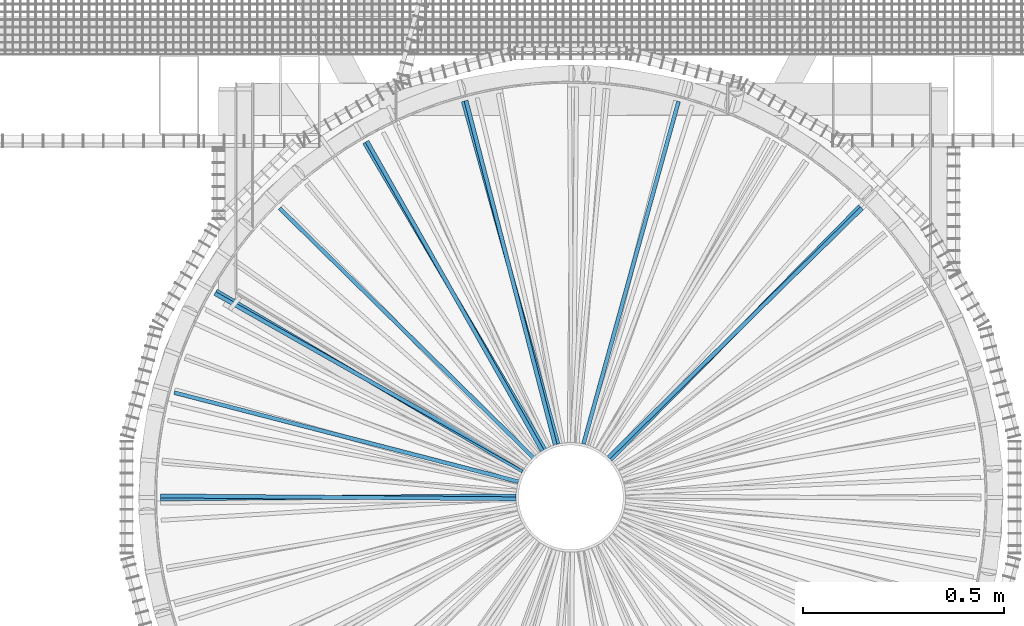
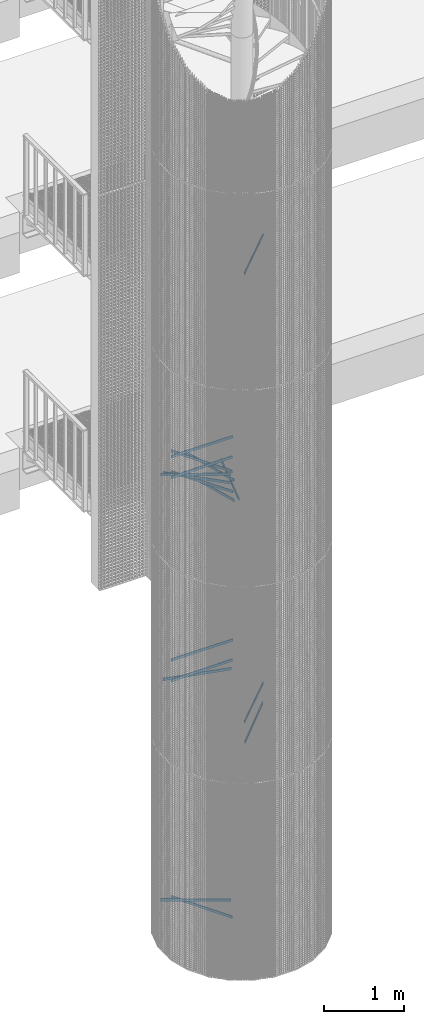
# One storey, part 227 of 1183: 17 beams, 2 elements without a shape of their own.
"""IFC2X3 building model written with IfcOpenShell, lengths in millimetres."""

from ifc_helpers import new_model, si_unit, frame, origin_with_axes, origin_2d_with_axis, place, context, subcontext, project, spatial, polyline, rectangle, outline, extrude, boolean, material, type_object, element, aggregate, save


model = new_model("IFC2X3")

# Units and contexts
model_context = context("Model", 3, precision=1e-05, world=origin_with_axes())
body_context = subcontext(model_context, "Body", "Model", "MODEL_VIEW")
ifc_project = project(units=[si_unit("LENGTHUNIT", "METRE", prefix="MILLI"), si_unit("AREAUNIT", "SQUARE_METRE"), si_unit("VOLUMEUNIT", "CUBIC_METRE"), si_unit("MASSUNIT", "GRAM", prefix="KILO"), si_unit("TIMEUNIT", "SECOND"), si_unit("PLANEANGLEUNIT", "RADIAN"), si_unit("SOLIDANGLEUNIT", "STERADIAN"), si_unit("THERMODYNAMICTEMPERATUREUNIT", "DEGREE_CELSIUS"), si_unit("LUMINOUSINTENSITYUNIT", "LUMEN")], contexts=[model_context])

# Site, building, storey
site_placement = place(None, origin_with_axes())
site = spatial("IfcSite", under=ifc_project, at=site_placement, Name="Undefined", CompositionType="ELEMENT")
building_placement = place(site_placement, origin_with_axes())
building = spatial("IfcBuilding", under=site, at=building_placement, Name="Undefined", CompositionType="ELEMENT")
storey_placement = place(building_placement, origin_with_axes())
storey = spatial("IfcBuildingStorey", under=building, at=storey_placement, Name="Undefined", CompositionType="ELEMENT", Elevation=0.0)

# Assembly, beams
assembly_1_placement = place(storey_placement, origin_with_axes())
assembly_1 = element("IfcElementAssembly", 1, at=assembly_1_placement, inside=storey, Name="POTEAU", AssemblyPlace="NOTDEFINED", PredefinedType="NOTDEFINED")
ifc_material = material(Name="STEEL/S235JR")
beam_type = type_object("IfcBeamType", Name="PL10*40", PredefinedType="NOTDEFINED")
beam_1_placement = place(assembly_1_placement, frame((-83.9487882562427, 4.289182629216, 7248.6), z_axis=(0.0, 0.0, 1.0), x_axis=(-0.99996413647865, -0.00846910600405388, 0.0)))
beam_1 = element("IfcBeam", 2, at=beam_1_placement, type_object=beam_type, material=ifc_material, Name="RAIDISSEUR", context=body_context, shape_type="CSG", body=[
    boolean("DIFFERENCE", extrude(rectangle(XDim=10.0, YDim=40.0, at=origin_2d_with_axis()), frame((935.982964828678, -2.59787459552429e-14, -3.63797880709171e-12), z_axis=(-1.0, 0.0, 0.0), x_axis=(0.0, -1.0, 0.0)), (0.0, 0.0, 1.0), 935.98), extrude(outline(polyline([(0.0, 0.0), (30.5663019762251, -4.91127138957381e-11), (60.366242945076, 6.80164206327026), (87.9055294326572, 20.0638634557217), (111.803226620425, 39.1216410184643), (130.861004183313, 63.0193382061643), (144.123225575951, 90.5586246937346), (150.9248676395, 120.358565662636), (150.924867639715, 150.924867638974), (144.123225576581, 180.724808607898), (130.86100418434, 208.264095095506), (111.803226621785, 232.161792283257), (87.9055294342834, 251.219569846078), (60.3662429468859, 264.481791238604), (30.5663019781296, 271.283433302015), (1.90266291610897e-09, 271.28343330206), (-29.7999409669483, 264.481791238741), (-57.3392274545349, 251.219569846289), (-81.2369246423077, 232.161792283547), (-100.294702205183, 208.26409509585), (-113.556923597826, 180.724808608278), (-120.35856566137, 150.92486763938), (-120.358565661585, 120.358565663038), (-113.556923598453, 90.5586246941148), (-100.294702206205, 63.0193382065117), (-81.2369246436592, 39.1216410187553), (-57.3392274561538, 20.0638634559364), (-29.7999409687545, 6.80164206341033), (0.0, 0.0)])), frame((52.5144067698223, 0.441408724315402, -22.5000000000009), z_axis=(0.0, 0.0, 1.0), x_axis=(-0.0787157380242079, 0.996897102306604, 0.0)), (0.0, 0.0, 1.0), 45.0)),
])
beam_2_placement = place(assembly_1_placement, frame((-56.3278473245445, 62.3936675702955, 6779.04), z_axis=(0.0, 0.0, 1.0), x_axis=(-0.713069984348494, 0.70109285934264, 0.0)))
beam_2 = element("IfcBeam", 3, at=beam_2_placement, type_object=beam_type, material=ifc_material, Name="RAIDISSEUR", context=body_context, shape_type="CSG", body=[
    boolean("DIFFERENCE", extrude(rectangle(XDim=10.0, YDim=40.0, at=origin_2d_with_axis()), frame((935.982964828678, -2.59787459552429e-14, -3.63797880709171e-12), z_axis=(-1.0, 0.0, 0.0), x_axis=(0.0, -1.0, 0.0)), (0.0, 0.0, 1.0), 935.98), extrude(outline(polyline([(0.0, 0.0), (30.5663019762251, -4.91127138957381e-11), (60.366242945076, 6.80164206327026), (87.9055294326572, 20.0638634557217), (111.803226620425, 39.1216410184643), (130.861004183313, 63.0193382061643), (144.123225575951, 90.5586246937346), (150.9248676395, 120.358565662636), (150.924867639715, 150.924867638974), (144.123225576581, 180.724808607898), (130.86100418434, 208.264095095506), (111.803226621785, 232.161792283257), (87.9055294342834, 251.219569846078), (60.3662429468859, 264.481791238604), (30.5663019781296, 271.283433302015), (1.90266291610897e-09, 271.28343330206), (-29.7999409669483, 264.481791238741), (-57.3392274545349, 251.219569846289), (-81.2369246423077, 232.161792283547), (-100.294702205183, 208.26409509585), (-113.556923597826, 180.724808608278), (-120.35856566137, 150.92486763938), (-120.358565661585, 120.358565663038), (-113.556923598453, 90.5586246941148), (-100.294702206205, 63.0193382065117), (-81.2369246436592, 39.1216410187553), (-57.3392274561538, 20.0638634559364), (-29.7999409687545, 6.80164206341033), (0.0, 0.0)])), frame((15.7801944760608, 98.2428248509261, -22.5), z_axis=(0.0, 0.0, 1.0), x_axis=(-0.760573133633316, 0.649252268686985, 0.0)), (0.0, 0.0, 1.0), 45.0)),
])
beam_3_placement = place(assembly_1_placement, frame((-70.5571919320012, 45.6889352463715, 6935.56), z_axis=(0.0, 0.0, 1.0), x_axis=(-0.870228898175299, 0.492647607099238, 0.0)))
beam_3 = element("IfcBeam", 4, at=beam_3_placement, type_object=beam_type, material=ifc_material, Name="RAIDISSEUR", context=body_context, shape_type="CSG", body=[
    boolean("DIFFERENCE", extrude(rectangle(XDim=10.0, YDim=40.0, at=origin_2d_with_axis()), frame((935.982964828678, -2.59787459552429e-14, -3.63797880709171e-12), z_axis=(-1.0, 0.0, 0.0), x_axis=(0.0, -1.0, 0.0)), (0.0, 0.0, 1.0), 935.98), extrude(outline(polyline([(0.0, 0.0), (30.5663019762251, -4.91127138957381e-11), (60.366242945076, 6.80164206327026), (87.9055294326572, 20.0638634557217), (111.803226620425, 39.1216410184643), (130.861004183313, 63.0193382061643), (144.123225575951, 90.5586246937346), (150.9248676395, 120.358565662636), (150.924867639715, 150.924867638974), (144.123225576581, 180.724808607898), (130.86100418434, 208.264095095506), (111.803226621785, 232.161792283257), (87.9055294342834, 251.219569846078), (60.3662429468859, 264.481791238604), (30.5663019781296, 271.283433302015), (1.90266291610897e-09, 271.28343330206), (-29.7999409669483, 264.481791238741), (-57.3392274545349, 251.219569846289), (-81.2369246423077, 232.161792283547), (-100.294702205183, 208.26409509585), (-113.556923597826, 180.724808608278), (-120.35856566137, 150.92486763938), (-120.358565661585, 120.358565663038), (-113.556923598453, 90.5586246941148), (-100.294702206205, 63.0193382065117), (-81.2369246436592, 39.1216410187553), (-57.3392274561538, 20.0638634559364), (-29.7999409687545, 6.80164206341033), (0.0, 0.0)])), frame((36.5163710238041, 69.264073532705, -22.5000000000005), z_axis=(0.0, 0.0, 1.0), x_axis=(-0.566618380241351, 0.823980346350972, 0.0)), (0.0, 0.0, 1.0), 45.0)),
])
beam_4_placement = place(assembly_1_placement, frame((-83.9487882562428, -4.28918262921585, 7561.64), z_axis=(0.0, 0.0, 1.0), x_axis=(-0.99996413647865, 0.00846910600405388, 0.0)))
beam_4 = element("IfcBeam", 5, at=beam_4_placement, type_object=beam_type, material=ifc_material, Name="RAIDISSEUR", context=body_context, shape_type="CSG", body=[
    boolean("DIFFERENCE", extrude(rectangle(XDim=10.0, YDim=40.0, at=origin_2d_with_axis()), frame((935.982964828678, -2.59787459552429e-14, -3.63797880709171e-12), z_axis=(-1.0, 0.0, 0.0), x_axis=(0.0, -1.0, 0.0)), (0.0, 0.0, 1.0), 935.98), extrude(outline(polyline([(0.0, 0.0), (30.5663019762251, -4.91127138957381e-11), (60.366242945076, 6.80164206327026), (87.9055294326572, 20.0638634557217), (111.803226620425, 39.1216410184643), (130.861004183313, 63.0193382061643), (144.123225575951, 90.5586246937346), (150.9248676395, 120.358565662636), (150.924867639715, 150.924867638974), (144.123225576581, 180.724808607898), (130.86100418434, 208.264095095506), (111.803226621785, 232.161792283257), (87.9055294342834, 251.219569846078), (60.3662429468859, 264.481791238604), (30.5663019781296, 271.283433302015), (1.90266291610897e-09, 271.28343330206), (-29.7999409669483, 264.481791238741), (-57.3392274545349, 251.219569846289), (-81.2369246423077, 232.161792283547), (-100.294702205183, 208.26409509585), (-113.556923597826, 180.724808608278), (-120.35856566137, 150.92486763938), (-120.358565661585, 120.358565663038), (-113.556923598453, 90.5586246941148), (-100.294702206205, 63.0193382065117), (-81.2369246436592, 39.1216410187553), (-57.3392274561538, 20.0638634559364), (-29.7999409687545, 6.80164206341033), (0.0, 0.0)])), frame((52.5720481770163, -7.24724394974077, -22.5000000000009), z_axis=(0.0, 0.0, 1.0), x_axis=(-0.0955894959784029, 0.995420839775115, 0.0)), (0.0, 0.0, 1.0), 45.0)),
])
beam_5_placement = place(assembly_1_placement, frame((56.3278473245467, 62.3936675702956, 9909.44000000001), z_axis=(0.0, 0.0, 1.0), x_axis=(0.713069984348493, 0.70109285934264, 0.0)))
beam_5 = element("IfcBeam", 6, at=beam_5_placement, type_object=beam_type, material=ifc_material, Name="RAIDISSEUR", context=body_context, shape_type="CSG", body=[
    boolean("DIFFERENCE", extrude(rectangle(XDim=10.0, YDim=40.0, at=origin_2d_with_axis()), frame((935.982964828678, -2.59787459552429e-14, -3.63797880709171e-12), z_axis=(-1.0, 0.0, 0.0), x_axis=(0.0, -1.0, 0.0)), (0.0, 0.0, 1.0), 935.98), extrude(outline(polyline([(0.0, 0.0), (30.5663019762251, -4.91127138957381e-11), (60.366242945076, 6.80164206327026), (87.9055294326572, 20.0638634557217), (111.803226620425, 39.1216410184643), (130.861004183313, 63.0193382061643), (144.123225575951, 90.5586246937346), (150.9248676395, 120.358565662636), (150.924867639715, 150.924867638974), (144.123225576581, 180.724808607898), (130.86100418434, 208.264095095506), (111.803226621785, 232.161792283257), (87.9055294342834, 251.219569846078), (60.3662429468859, 264.481791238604), (30.5663019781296, 271.283433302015), (1.90266291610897e-09, 271.28343330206), (-29.7999409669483, 264.481791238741), (-57.3392274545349, 251.219569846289), (-81.2369246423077, 232.161792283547), (-100.294702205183, 208.26409509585), (-113.556923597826, 180.724808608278), (-120.35856566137, 150.92486763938), (-120.358565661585, 120.358565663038), (-113.556923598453, 90.5586246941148), (-100.294702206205, 63.0193382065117), (-81.2369246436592, 39.1216410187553), (-57.3392274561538, 20.0638634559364), (-29.7999409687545, 6.80164206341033), (0.0, 0.0)])), frame((-178.827404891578, 93.0960356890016, -22.5), z_axis=(0.0, 0.0, 1.0), x_axis=(-0.636276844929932, -0.771460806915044, 0.0)), (0.0, 0.0, 1.0), 45.0)),
])
beam_6_placement = place(assembly_1_placement, frame((-38.259853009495, 74.8463745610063, 6622.52), z_axis=(0.0, 0.0, 1.0), x_axis=(-0.507316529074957, 0.861759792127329, 0.0)))
beam_6 = element("IfcBeam", 7, at=beam_6_placement, type_object=beam_type, material=ifc_material, Name="RAIDISSEUR", context=body_context, shape_type="CSG", body=[
    boolean("DIFFERENCE", extrude(rectangle(XDim=10.0, YDim=40.0, at=origin_2d_with_axis()), frame((935.982964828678, -2.59787459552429e-14, -3.63797880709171e-12), z_axis=(-1.0, 0.0, 0.0), x_axis=(0.0, -1.0, 0.0)), (0.0, 0.0, 1.0), 935.98), extrude(outline(polyline([(0.0, 0.0), (30.5663019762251, -4.91127138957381e-11), (60.366242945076, 6.80164206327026), (87.9055294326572, 20.0638634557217), (111.803226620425, 39.1216410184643), (130.861004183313, 63.0193382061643), (144.123225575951, 90.5586246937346), (150.9248676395, 120.358565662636), (150.924867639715, 150.924867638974), (144.123225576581, 180.724808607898), (130.86100418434, 208.264095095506), (111.803226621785, 232.161792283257), (87.9055294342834, 251.219569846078), (60.3662429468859, 264.481791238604), (30.5663019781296, 271.283433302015), (1.90266291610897e-09, 271.28343330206), (-29.7999409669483, 264.481791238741), (-57.3392274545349, 251.219569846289), (-81.2369246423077, 232.161792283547), (-100.294702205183, 208.26409509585), (-113.556923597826, 180.724808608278), (-120.35856566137, 150.92486763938), (-120.358565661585, 120.358565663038), (-113.556923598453, 90.5586246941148), (-100.294702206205, 63.0193382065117), (-81.2369246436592, 39.1216410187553), (-57.3392274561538, 20.0638634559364), (-29.7999409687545, 6.80164206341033), (0.0, 0.0)])), frame((-11.7496667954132, 120.867231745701, -22.5), z_axis=(0.0, 0.0, 1.0), x_axis=(-0.902696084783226, 0.430278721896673, 0.0)), (0.0, 0.0, 1.0), 45.0)),
])
beam_7_placement = place(assembly_1_placement, frame((-45.6889352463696, 70.5571919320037, 6935.56), z_axis=(0.0, 0.0, 1.0), x_axis=(-0.492647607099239, 0.870228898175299, 0.0)))
beam_7 = element("IfcBeam", 8, at=beam_7_placement, type_object=beam_type, material=ifc_material, Name="RAIDISSEUR", context=body_context, shape_type="CSG", body=[
    boolean("DIFFERENCE", extrude(rectangle(XDim=10.0, YDim=40.0, at=origin_2d_with_axis()), frame((935.982964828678, -2.59787459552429e-14, -3.63797880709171e-12), z_axis=(-1.0, 0.0, 0.0), x_axis=(0.0, -1.0, 0.0)), (0.0, 0.0, 1.0), 935.98), extrude(outline(polyline([(0.0, 0.0), (30.5663019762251, -4.91127138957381e-11), (60.366242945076, 6.80164206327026), (87.9055294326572, 20.0638634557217), (111.803226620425, 39.1216410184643), (130.861004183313, 63.0193382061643), (144.123225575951, 90.5586246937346), (150.9248676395, 120.358565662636), (150.924867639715, 150.924867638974), (144.123225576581, 180.724808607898), (130.86100418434, 208.264095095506), (111.803226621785, 232.161792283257), (87.9055294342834, 251.219569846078), (60.3662429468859, 264.481791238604), (30.5663019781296, 271.283433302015), (1.90266291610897e-09, 271.28343330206), (-29.7999409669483, 264.481791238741), (-57.3392274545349, 251.219569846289), (-81.2369246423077, 232.161792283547), (-100.294702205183, 208.26409509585), (-113.556923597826, 180.724808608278), (-120.35856566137, 150.92486763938), (-120.358565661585, 120.358565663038), (-113.556923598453, 90.5586246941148), (-100.294702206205, 63.0193382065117), (-81.2369246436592, 39.1216410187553), (-57.3392274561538, 20.0638634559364), (-29.7999409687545, 6.80164206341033), (0.0, 0.0)])), frame((-13.7225315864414, 112.072824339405, -22.5000000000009), z_axis=(0.0, 0.0, 1.0), x_axis=(-0.909854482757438, 0.414927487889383, 0.0)), (0.0, 0.0, 1.0), 45.0)),
])
beam_8_placement = place(assembly_1_placement, frame((-25.8705774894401, 79.9781805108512, 6779.04), z_axis=(0.0, 0.0, 1.0), x_axis=(-0.250629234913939, 0.968083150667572, 0.0)))
beam_8 = element("IfcBeam", 9, at=beam_8_placement, type_object=beam_type, material=ifc_material, Name="RAIDISSEUR", context=body_context, shape_type="CSG", body=[
    boolean("DIFFERENCE", extrude(rectangle(XDim=10.0, YDim=40.0, at=origin_2d_with_axis()), frame((935.982964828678, -2.59787459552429e-14, -3.63797880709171e-12), z_axis=(-1.0, 0.0, 0.0), x_axis=(0.0, -1.0, 0.0)), (0.0, 0.0, 1.0), 935.98), extrude(outline(polyline([(0.0, 0.0), (30.5663019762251, -4.91127138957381e-11), (60.366242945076, 6.80164206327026), (87.9055294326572, 20.0638634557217), (111.803226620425, 39.1216410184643), (130.861004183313, 63.0193382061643), (144.123225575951, 90.5586246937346), (150.9248676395, 120.358565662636), (150.924867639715, 150.924867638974), (144.123225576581, 180.724808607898), (130.86100418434, 208.264095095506), (111.803226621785, 232.161792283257), (87.9055294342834, 251.219569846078), (60.3662429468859, 264.481791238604), (30.5663019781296, 271.283433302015), (1.90266291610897e-09, 271.28343330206), (-29.7999409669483, 264.481791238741), (-57.3392274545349, 251.219569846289), (-81.2369246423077, 232.161792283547), (-100.294702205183, 208.26409509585), (-113.556923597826, 180.724808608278), (-120.35856566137, 150.92486763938), (-120.358565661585, 120.358565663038), (-113.556923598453, 90.5586246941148), (-100.294702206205, 63.0193382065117), (-81.2369246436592, 39.1216410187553), (-57.3392274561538, 20.0638634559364), (-29.7999409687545, 6.80164206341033), (0.0, 0.0)])), frame((-46.4147694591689, 126.249376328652, -22.5), z_axis=(0.0, 0.0, 1.0), x_axis=(-0.986243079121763, 0.165301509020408, 0.0)), (0.0, 0.0, 1.0), 45.0)),
])
beam_9_placement = place(assembly_1_placement, frame((-17.5845129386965, 82.1984248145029, 6466.0), z_axis=(0.0, 0.0, 1.0), x_axis=(-0.266990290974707, 0.963699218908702, 0.0)))
beam_9 = element("IfcBeam", 10, at=beam_9_placement, type_object=beam_type, material=ifc_material, Name="RAIDISSEUR", context=body_context, shape_type="CSG", body=[
    boolean("DIFFERENCE", extrude(rectangle(XDim=10.0, YDim=40.0, at=origin_2d_with_axis()), frame((935.982964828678, -2.59787459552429e-14, -3.63797880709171e-12), z_axis=(-1.0, 0.0, 0.0), x_axis=(0.0, -1.0, 0.0)), (0.0, 0.0, 1.0), 935.98), extrude(outline(polyline([(0.0, 0.0), (30.5663019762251, -4.91127138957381e-11), (60.366242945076, 6.80164206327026), (87.9055294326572, 20.0638634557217), (111.803226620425, 39.1216410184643), (130.861004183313, 63.0193382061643), (144.123225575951, 90.5586246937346), (150.9248676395, 120.358565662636), (150.924867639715, 150.924867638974), (144.123225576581, 180.724808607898), (130.86100418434, 208.264095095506), (111.803226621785, 232.161792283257), (87.9055294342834, 251.219569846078), (60.3662429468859, 264.481791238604), (30.5663019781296, 271.283433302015), (1.90266291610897e-09, 271.28343330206), (-29.7999409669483, 264.481791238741), (-57.3392274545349, 251.219569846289), (-81.2369246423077, 232.161792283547), (-100.294702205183, 208.26409509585), (-113.556923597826, 180.724808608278), (-120.35856566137, 150.92486763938), (-120.358565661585, 120.358565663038), (-113.556923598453, 90.5586246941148), (-100.294702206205, 63.0193382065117), (-81.2369246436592, 39.1216410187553), (-57.3392274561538, 20.0638634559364), (-29.7999409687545, 6.80164206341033), (0.0, 0.0)])), frame((-44.1970981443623, 135.595478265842, -22.4999999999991), z_axis=(0.0, 0.0, 1.0), x_axis=(-0.983301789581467, 0.181982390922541, 0.0)), (0.0, 0.0, 1.0), 45.0)),
])
beam_10_placement = place(assembly_1_placement, frame((17.5845129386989, 82.1984248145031, 6466.0), z_axis=(0.0, 0.0, 1.0), x_axis=(0.266990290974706, 0.963699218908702, 0.0)))
beam_10 = element("IfcBeam", 11, at=beam_10_placement, type_object=beam_type, material=ifc_material, Name="RAIDISSEUR", context=body_context, shape_type="CSG", body=[
    boolean("DIFFERENCE", extrude(rectangle(XDim=10.0, YDim=40.0, at=origin_2d_with_axis()), frame((935.982964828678, -2.59787459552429e-14, -3.63797880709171e-12), z_axis=(-1.0, 0.0, 0.0), x_axis=(0.0, -1.0, 0.0)), (0.0, 0.0, 1.0), 935.98), extrude(outline(polyline([(0.0, 0.0), (30.5663019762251, -4.91127138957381e-11), (60.366242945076, 6.80164206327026), (87.9055294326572, 20.0638634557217), (111.803226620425, 39.1216410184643), (130.861004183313, 63.0193382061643), (144.123225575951, 90.5586246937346), (150.9248676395, 120.358565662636), (150.924867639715, 150.924867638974), (144.123225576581, 180.724808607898), (130.86100418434, 208.264095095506), (111.803226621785, 232.161792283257), (87.9055294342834, 251.219569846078), (60.3662429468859, 264.481791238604), (30.5663019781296, 271.283433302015), (1.90266291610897e-09, 271.28343330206), (-29.7999409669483, 264.481791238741), (-57.3392274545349, 251.219569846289), (-81.2369246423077, 232.161792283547), (-100.294702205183, 208.26409509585), (-113.556923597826, 180.724808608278), (-120.35856566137, 150.92486763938), (-120.358565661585, 120.358565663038), (-113.556923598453, 90.5586246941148), (-100.294702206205, 63.0193382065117), (-81.2369246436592, 39.1216410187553), (-57.3392274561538, 20.0638634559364), (-29.7999409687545, 6.80164206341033), (0.0, 0.0)])), frame((-117.062792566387, 127.412635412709, -22.4999999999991), z_axis=(0.0, 0.0, 1.0), x_axis=(-0.936762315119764, -0.349966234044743, 0.0)), (0.0, 0.0, 1.0), 45.0)),
])
aggregate(assembly_1, [beam_1, beam_2, beam_3, beam_4, beam_5, beam_6, beam_7, beam_8, beam_9, beam_10])

assembly_2_placement = place(storey_placement, origin_with_axes())
assembly_2 = element("IfcElementAssembly", 12, at=assembly_2_placement, inside=storey, Name="POTEAU", AssemblyPlace="NOTDEFINED", PredefinedType="NOTDEFINED")
beam_11_placement = place(assembly_2_placement, frame((-83.9487882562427, 4.28918262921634, 4148.04), z_axis=(0.0, 0.0, 1.0), x_axis=(-0.99996413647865, -0.00846910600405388, 0.0)))
beam_11 = element("IfcBeam", 13, at=beam_11_placement, type_object=beam_type, material=ifc_material, Name="RAIDISSEUR", context=body_context, shape_type="CSG", body=[
    boolean("DIFFERENCE", extrude(rectangle(XDim=10.0, YDim=40.0, at=origin_2d_with_axis()), frame((935.982964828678, -2.59787459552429e-14, -3.63797880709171e-12), z_axis=(-1.0, 0.0, 0.0), x_axis=(0.0, -1.0, 0.0)), (0.0, 0.0, 1.0), 935.98), extrude(outline(polyline([(0.0, 0.0), (30.5663019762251, -4.91127138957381e-11), (60.366242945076, 6.80164206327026), (87.9055294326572, 20.0638634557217), (111.803226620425, 39.1216410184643), (130.861004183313, 63.0193382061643), (144.123225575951, 90.5586246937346), (150.9248676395, 120.358565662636), (150.924867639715, 150.924867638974), (144.123225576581, 180.724808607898), (130.86100418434, 208.264095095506), (111.803226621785, 232.161792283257), (87.9055294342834, 251.219569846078), (60.3662429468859, 264.481791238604), (30.5663019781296, 271.283433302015), (1.90266291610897e-09, 271.28343330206), (-29.7999409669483, 264.481791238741), (-57.3392274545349, 251.219569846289), (-81.2369246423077, 232.161792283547), (-100.294702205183, 208.26409509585), (-113.556923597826, 180.724808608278), (-120.35856566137, 150.92486763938), (-120.358565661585, 120.358565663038), (-113.556923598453, 90.5586246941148), (-100.294702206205, 63.0193382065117), (-81.2369246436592, 39.1216410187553), (-57.3392274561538, 20.0638634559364), (-29.7999409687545, 6.80164206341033), (0.0, 0.0)])), frame((52.5144067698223, 0.441408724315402, -22.5000000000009), z_axis=(0.0, 0.0, 1.0), x_axis=(-0.0787157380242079, 0.996897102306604, 0.0)), (0.0, 0.0, 1.0), 45.0)),
])
beam_12_placement = place(assembly_2_placement, frame((56.3278473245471, 62.3936675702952, 3066.4), z_axis=(0.0, 0.0, 1.0), x_axis=(0.713069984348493, 0.70109285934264, 0.0)))
beam_12 = element("IfcBeam", 14, at=beam_12_placement, type_object=beam_type, material=ifc_material, Name="RAIDISSEUR", context=body_context, shape_type="CSG", body=[
    boolean("DIFFERENCE", extrude(rectangle(XDim=10.0, YDim=40.0, at=origin_2d_with_axis()), frame((935.982964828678, -2.59787459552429e-14, -3.63797880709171e-12), z_axis=(-1.0, 0.0, 0.0), x_axis=(0.0, -1.0, 0.0)), (0.0, 0.0, 1.0), 935.98), extrude(outline(polyline([(0.0, 0.0), (30.5663019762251, -4.91127138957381e-11), (60.366242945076, 6.80164206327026), (87.9055294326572, 20.0638634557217), (111.803226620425, 39.1216410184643), (130.861004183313, 63.0193382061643), (144.123225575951, 90.5586246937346), (150.9248676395, 120.358565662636), (150.924867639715, 150.924867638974), (144.123225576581, 180.724808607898), (130.86100418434, 208.264095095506), (111.803226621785, 232.161792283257), (87.9055294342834, 251.219569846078), (60.3662429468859, 264.481791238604), (30.5663019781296, 271.283433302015), (1.90266291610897e-09, 271.28343330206), (-29.7999409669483, 264.481791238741), (-57.3392274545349, 251.219569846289), (-81.2369246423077, 232.161792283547), (-100.294702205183, 208.26409509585), (-113.556923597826, 180.724808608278), (-120.35856566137, 150.92486763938), (-120.358565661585, 120.358565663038), (-113.556923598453, 90.5586246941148), (-100.294702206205, 63.0193382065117), (-81.2369246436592, 39.1216410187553), (-57.3392274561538, 20.0638634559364), (-29.7999409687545, 6.80164206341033), (0.0, 0.0)])), frame((-178.827404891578, 93.0960356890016, -22.5), z_axis=(0.0, 0.0, 1.0), x_axis=(-0.636276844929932, -0.771460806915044, 0.0)), (0.0, 0.0, 1.0), 45.0)),
])
beam_13_placement = place(assembly_2_placement, frame((62.393667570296, 56.3278473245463, 2757.36), z_axis=(0.0, 0.0, 1.0), x_axis=(0.701092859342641, 0.713069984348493, 0.0)))
beam_13 = element("IfcBeam", 15, at=beam_13_placement, type_object=beam_type, material=ifc_material, Name="RAIDISSEUR", context=body_context, shape_type="CSG", body=[
    boolean("DIFFERENCE", extrude(rectangle(XDim=10.0, YDim=40.0, at=origin_2d_with_axis()), frame((935.982964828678, -2.59787459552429e-14, -3.63797880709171e-12), z_axis=(-1.0, 0.0, 0.0), x_axis=(0.0, -1.0, 0.0)), (0.0, 0.0, 1.0), 935.98), extrude(outline(polyline([(0.0, 0.0), (30.5663019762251, -4.91127138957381e-11), (60.366242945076, 6.80164206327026), (87.9055294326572, 20.0638634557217), (111.803226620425, 39.1216410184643), (130.861004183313, 63.0193382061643), (144.123225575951, 90.5586246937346), (150.9248676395, 120.358565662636), (150.924867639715, 150.924867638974), (144.123225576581, 180.724808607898), (130.86100418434, 208.264095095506), (111.803226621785, 232.161792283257), (87.9055294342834, 251.219569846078), (60.3662429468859, 264.481791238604), (30.5663019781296, 271.283433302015), (1.90266291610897e-09, 271.28343330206), (-29.7999409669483, 264.481791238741), (-57.3392274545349, 251.219569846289), (-81.2369246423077, 232.161792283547), (-100.294702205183, 208.26409509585), (-113.556923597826, 180.724808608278), (-120.35856566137, 150.92486763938), (-120.358565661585, 120.358565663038), (-113.556923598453, 90.5586246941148), (-100.294702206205, 63.0193382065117), (-81.2369246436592, 39.1216410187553), (-57.3392274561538, 20.0638634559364), (-29.7999409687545, 6.80164206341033), (0.0, 0.0)])), frame((-177.152276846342, 104.689646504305, -22.5), z_axis=(0.0, 0.0, 1.0), x_axis=(-0.649252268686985, -0.760573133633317, 0.0)), (0.0, 0.0, 1.0), 45.0)),
])
beam_14_placement = place(assembly_2_placement, frame((-83.9487882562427, -4.28918262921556, 4457.08), z_axis=(0.0, 0.0, 1.0), x_axis=(-0.99996413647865, 0.00846910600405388, 0.0)))
beam_14 = element("IfcBeam", 16, at=beam_14_placement, type_object=beam_type, material=ifc_material, Name="RAIDISSEUR", context=body_context, shape_type="CSG", body=[
    boolean("DIFFERENCE", extrude(rectangle(XDim=10.0, YDim=40.0, at=origin_2d_with_axis()), frame((935.982964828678, -2.59787459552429e-14, -3.63797880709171e-12), z_axis=(-1.0, 0.0, 0.0), x_axis=(0.0, -1.0, 0.0)), (0.0, 0.0, 1.0), 935.98), extrude(outline(polyline([(0.0, 0.0), (30.5663019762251, -4.91127138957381e-11), (60.366242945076, 6.80164206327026), (87.9055294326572, 20.0638634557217), (111.803226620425, 39.1216410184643), (130.861004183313, 63.0193382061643), (144.123225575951, 90.5586246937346), (150.9248676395, 120.358565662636), (150.924867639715, 150.924867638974), (144.123225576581, 180.724808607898), (130.86100418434, 208.264095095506), (111.803226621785, 232.161792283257), (87.9055294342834, 251.219569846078), (60.3662429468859, 264.481791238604), (30.5663019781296, 271.283433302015), (1.90266291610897e-09, 271.28343330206), (-29.7999409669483, 264.481791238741), (-57.3392274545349, 251.219569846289), (-81.2369246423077, 232.161792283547), (-100.294702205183, 208.26409509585), (-113.556923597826, 180.724808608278), (-120.35856566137, 150.92486763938), (-120.358565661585, 120.358565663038), (-113.556923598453, 90.5586246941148), (-100.294702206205, 63.0193382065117), (-81.2369246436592, 39.1216410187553), (-57.3392274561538, 20.0638634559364), (-29.7999409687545, 6.80164206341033), (0.0, 0.0)])), frame((52.5720481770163, -7.24724394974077, -22.5000000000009), z_axis=(0.0, 0.0, 1.0), x_axis=(-0.0955894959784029, 0.995420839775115, 0.0)), (0.0, 0.0, 1.0), 45.0)),
])
beam_15_placement = place(assembly_2_placement, frame((-79.9781805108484, 25.8705774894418, 3993.52), z_axis=(0.0, 0.0, 1.0), x_axis=(-0.968083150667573, 0.250629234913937, 0.0)))
beam_15 = element("IfcBeam", 17, at=beam_15_placement, type_object=beam_type, material=ifc_material, Name="RAIDISSEUR", context=body_context, shape_type="CSG", body=[
    boolean("DIFFERENCE", extrude(rectangle(XDim=10.0, YDim=40.0, at=origin_2d_with_axis()), frame((935.982964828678, -2.59787459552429e-14, -3.63797880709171e-12), z_axis=(-1.0, 0.0, 0.0), x_axis=(0.0, -1.0, 0.0)), (0.0, 0.0, 1.0), 935.98), extrude(outline(polyline([(0.0, 0.0), (30.5663019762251, -4.91127138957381e-11), (60.366242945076, 6.80164206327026), (87.9055294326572, 20.0638634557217), (111.803226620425, 39.1216410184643), (130.861004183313, 63.0193382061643), (144.123225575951, 90.5586246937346), (150.9248676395, 120.358565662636), (150.924867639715, 150.924867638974), (144.123225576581, 180.724808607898), (130.86100418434, 208.264095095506), (111.803226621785, 232.161792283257), (87.9055294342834, 251.219569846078), (60.3662429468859, 264.481791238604), (30.5663019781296, 271.283433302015), (1.90266291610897e-09, 271.28343330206), (-29.7999409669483, 264.481791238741), (-57.3392274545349, 251.219569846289), (-81.2369246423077, 232.161792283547), (-100.294702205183, 208.26409509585), (-113.556923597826, 180.724808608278), (-120.35856566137, 150.92486763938), (-120.358565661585, 120.358565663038), (-113.556923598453, 90.5586246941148), (-100.294702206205, 63.0193382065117), (-81.2369246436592, 39.1216410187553), (-57.3392274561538, 20.0638634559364), (-29.7999409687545, 6.80164206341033), (0.0, 0.0)])), frame((49.045726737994, 35.9058318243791, -22.5), z_axis=(0.0, 0.0, 1.0), x_axis=(-0.334049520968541, 0.942555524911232, 0.0)), (0.0, 0.0, 1.0), 45.0)),
])
beam_16_placement = place(assembly_2_placement, frame((-45.6889352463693, 70.5571919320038, 130.52), z_axis=(0.0, 0.0, 1.0), x_axis=(-0.492647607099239, 0.870228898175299, 0.0)))
beam_16 = element("IfcBeam", 18, at=beam_16_placement, type_object=beam_type, material=ifc_material, Name="RAIDISSEUR", context=body_context, shape_type="CSG", body=[
    boolean("DIFFERENCE", extrude(rectangle(XDim=10.0, YDim=40.0, at=origin_2d_with_axis()), frame((935.982964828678, -2.59787459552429e-14, -3.63797880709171e-12), z_axis=(-1.0, 0.0, 0.0), x_axis=(0.0, -1.0, 0.0)), (0.0, 0.0, 1.0), 935.98), extrude(outline(polyline([(0.0, 0.0), (30.5663019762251, -4.91127138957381e-11), (60.366242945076, 6.80164206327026), (87.9055294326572, 20.0638634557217), (111.803226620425, 39.1216410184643), (130.861004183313, 63.0193382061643), (144.123225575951, 90.5586246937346), (150.9248676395, 120.358565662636), (150.924867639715, 150.924867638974), (144.123225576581, 180.724808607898), (130.86100418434, 208.264095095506), (111.803226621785, 232.161792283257), (87.9055294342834, 251.219569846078), (60.3662429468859, 264.481791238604), (30.5663019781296, 271.283433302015), (1.90266291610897e-09, 271.28343330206), (-29.7999409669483, 264.481791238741), (-57.3392274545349, 251.219569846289), (-81.2369246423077, 232.161792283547), (-100.294702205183, 208.26409509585), (-113.556923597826, 180.724808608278), (-120.35856566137, 150.92486763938), (-120.358565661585, 120.358565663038), (-113.556923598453, 90.5586246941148), (-100.294702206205, 63.0193382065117), (-81.2369246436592, 39.1216410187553), (-57.3392274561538, 20.0638634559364), (-29.7999409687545, 6.80164206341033), (0.0, 0.0)])), frame((-13.7225315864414, 112.072824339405, -22.5000000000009), z_axis=(0.0, 0.0, 1.0), x_axis=(-0.909854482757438, 0.414927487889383, 0.0)), (0.0, 0.0, 1.0), 45.0)),
])
beam_17_placement = place(assembly_2_placement, frame((-74.8463745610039, 38.2598530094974, 439.56), z_axis=(0.0, 0.0, 1.0), x_axis=(-0.861759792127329, 0.507316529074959, 0.0)))
beam_17 = element("IfcBeam", 19, at=beam_17_placement, type_object=beam_type, material=ifc_material, Name="RAIDISSEUR", context=body_context, shape_type="CSG", body=[
    boolean("DIFFERENCE", extrude(rectangle(XDim=10.0, YDim=40.0, at=origin_2d_with_axis()), frame((935.982964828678, -2.59787459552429e-14, -3.63797880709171e-12), z_axis=(-1.0, 0.0, 0.0), x_axis=(0.0, -1.0, 0.0)), (0.0, 0.0, 1.0), 935.98), extrude(outline(polyline([(0.0, 0.0), (30.5663019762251, -4.91127138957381e-11), (60.366242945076, 6.80164206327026), (87.9055294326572, 20.0638634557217), (111.803226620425, 39.1216410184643), (130.861004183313, 63.0193382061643), (144.123225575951, 90.5586246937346), (150.9248676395, 120.358565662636), (150.924867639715, 150.924867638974), (144.123225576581, 180.724808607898), (130.86100418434, 208.264095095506), (111.803226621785, 232.161792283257), (87.9055294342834, 251.219569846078), (60.3662429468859, 264.481791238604), (30.5663019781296, 271.283433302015), (1.90266291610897e-09, 271.28343330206), (-29.7999409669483, 264.481791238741), (-57.3392274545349, 251.219569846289), (-81.2369246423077, 232.161792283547), (-100.294702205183, 208.26409509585), (-113.556923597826, 180.724808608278), (-120.35856566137, 150.92486763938), (-120.358565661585, 120.358565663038), (-113.556923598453, 90.5586246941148), (-100.294702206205, 63.0193382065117), (-81.2369246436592, 39.1216410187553), (-57.3392274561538, 20.0638634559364), (-29.7999409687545, 6.80164206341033), (0.0, 0.0)])), frame((35.4106162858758, 61.2945797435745, -22.5), z_axis=(0.0, 0.0, 1.0), x_axis=(-0.580493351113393, 0.814264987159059, 0.0)), (0.0, 0.0, 1.0), 45.0)),
])
aggregate(assembly_2, [beam_11, beam_12, beam_13, beam_14, beam_15, beam_16, beam_17])

save(model, "model.ifc")
